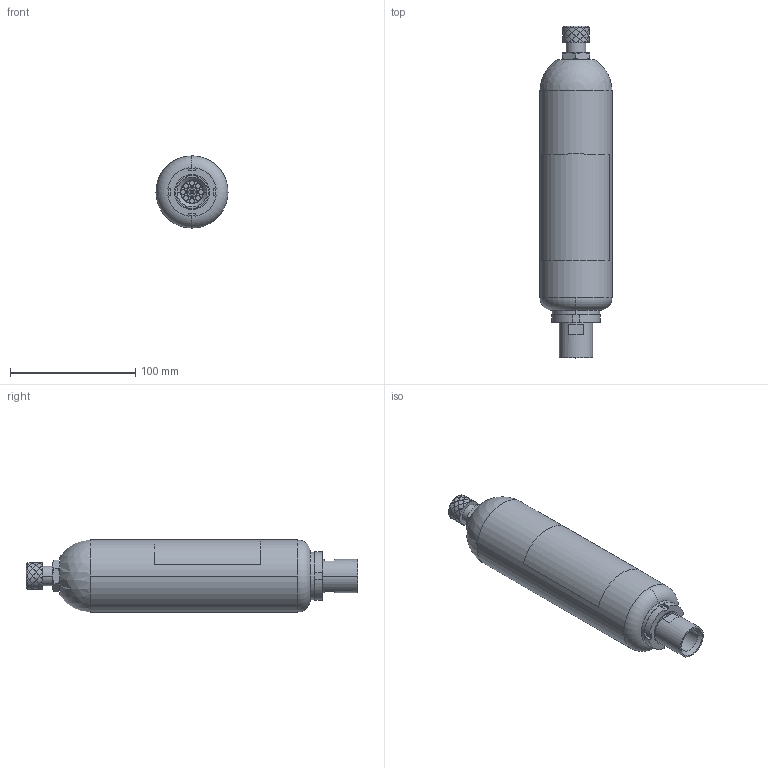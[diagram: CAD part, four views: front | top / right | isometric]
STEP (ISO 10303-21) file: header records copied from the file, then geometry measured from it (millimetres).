
FILE_DESCRIPTION((''),'2;1');
FILE_NAME('EHV_0L2_350_90.stp','2011-02-28T16:29:10',(''),(''),'Mechanical Desktop 2009','Mechanical Desktop 2009',', , ');
FILE_SCHEMA(('CONFIG_CONTROL_DESIGN'));
Length unit declared in the file: millimetre
Products named in the file (22): DESSIN1; AC108763-01120; CA100213-00290; CA100213-00290-1; BC100163-00220; BM100032-00200; CB108953-00200(1); CB108953-00200; BE100038-00200; EC100984-00200; PIECE1(1); PIECE2; VC102342-00220; CV102401-00200(1); CV102401-00200; EC100999-00200(1); EC100999-00200; BO102362-02620; BO100759-02600(1); BO100759-02600; JP101164-00020; JOINT PLAT
Assembly tree (21 placements, depth 6):
  DESSIN1
    AC108763-01120
      CA100213-00290
        CA100213-00290-1
      BC100163-00220
        BM100032-00200
          CB108953-00200(1)
            CB108953-00200
        BE100038-00200
        EC100984-00200
          PIECE1(1)
      PIECE2
      VC102342-00220
        CV102401-00200(1)
          CV102401-00200
        EC100999-00200(1)
          EC100999-00200
        BO102362-02620
          BO100759-02600(1)
            BO100759-02600
          JP101164-00020
            JOINT PLAT
Bounding box: 57.67 x 265.35 x 57.7 mm (x, y, z)
Volume: 310972.1 mm3; surface area: 96544.4 mm2
Topology: 9 solids, 9 shells, 498 faces, 1117 edges, 629 vertices
Faces by surface type: bspline 232, cylinder 144, plane 64, cone 45, torus 12, sphere 1
Entity records: 22161 total; most frequent: CARTESIAN_POINT 12244, ORIENTED_EDGE 2168, DIRECTION 1626, EDGE_CURVE 1084, AXIS2_PLACEMENT_3D 684, VERTEX_POINT 624, EDGE_LOOP 548, FACE_OUTER_BOUND 498
